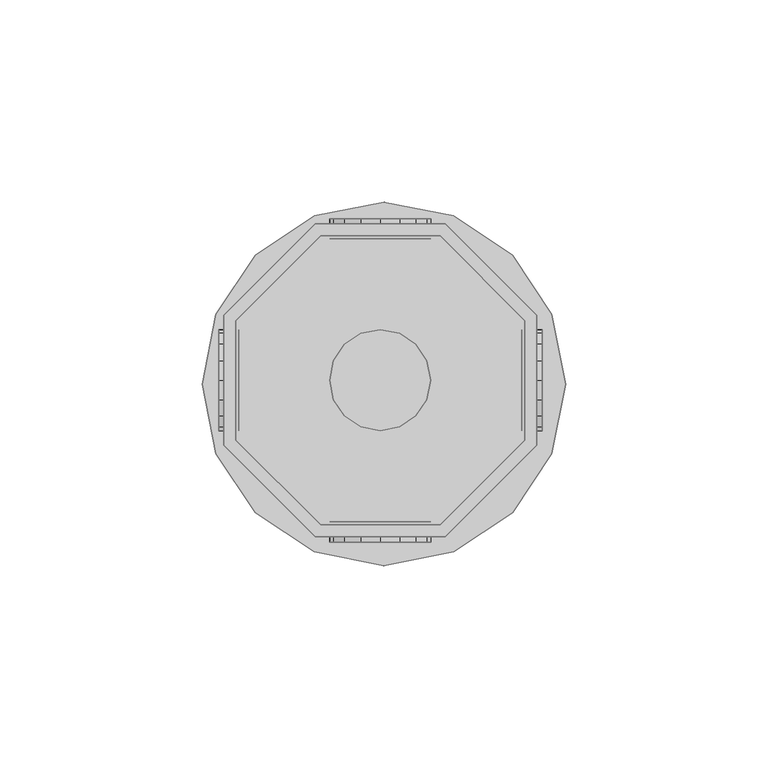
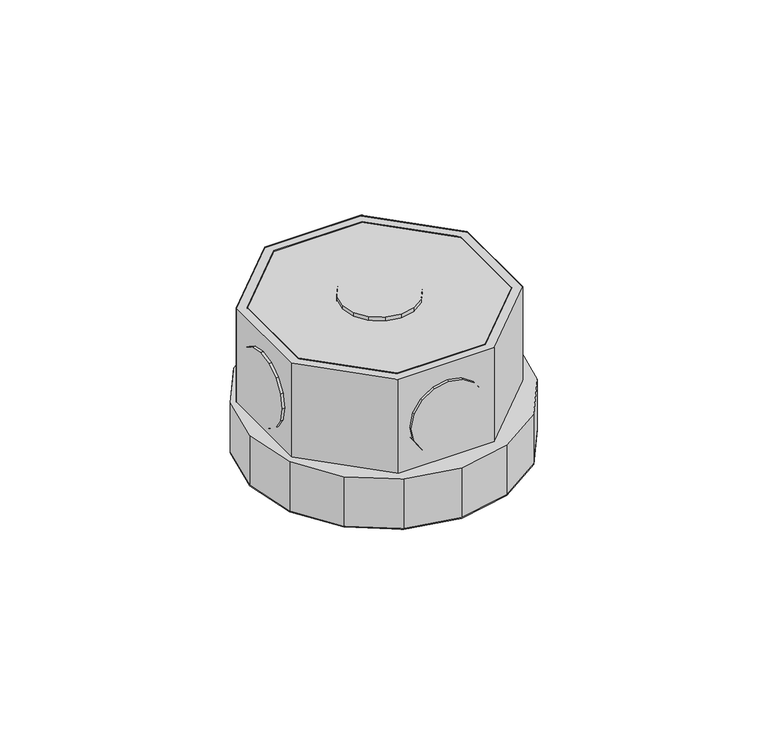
"""IFC4 building model written with IfcOpenShell, lengths in millimetres: light fixture geometry,  213148 :  213148."""

from ifc_helpers import new_model, si_unit, origin, place, context, project, spatial, triangles, source, transform, mapped, element, save


def light_fixture_ce5e456c(model_context):
    return source(origin(), model_context, "Body", "Tessellation", [
        triangles([(22382.4989136, 16550.5002411, 2924.5999741), (22352.9007202, 16550.5002411, 2975.400071), (22352.9007202, 16550.5002411, 2924.5999741), (22382.4989136, 16550.5002411, 2975.400071), (22383.6988403, 16476.0001373, 2924.5999741), (22351.6007996, 16476.0001373, 2975.400071), (22351.6007996, 16476.0001373, 2924.5999741), (22383.6988403, 16476.0001373, 2975.400071), (22331.8996765, 16529.5003601, 2975.400071), (22331.8996765, 16529.5003601, 2924.5999741), (22406.3997803, 16498.6999146, 2924.5999741), (22406.3997803, 16498.6999146, 2975.400071), (22331.8996765, 16499.8998413, 2975.400071), (22331.8996765, 16499.8998413, 2924.5999741), (22406.3997803, 16530.8002808, 2924.5999741), (22406.3997803, 16530.8002808, 2975.400071), (22352.9007202, 16478.9999542, 2975.400071), (22352.9007202, 16478.9999542, 2924.5999741), (22383.6988403, 16553.500058, 2924.5999741), (22383.6988403, 16553.500058, 2975.400071), (22382.4989136, 16478.9999542, 2924.5999741), (22382.4989136, 16478.9999542, 2975.400071), (22351.6007996, 16553.500058, 2975.400071), (22351.6007996, 16553.500058, 2924.5999741), (22403.3999634, 16499.8998413, 2924.5999741), (22403.3999634, 16499.8998413, 2975.400071), (22328.8998596, 16530.8002808, 2975.400071), (22328.8998596, 16530.8002808, 2924.5999741), (22328.8998596, 16498.6999146, 2975.400071), (22403.3999634, 16529.5003601, 2975.400071), (22403.3999634, 16529.5003601, 2924.5999741), (22328.8998596, 16498.6999146, 2924.5999741), (22331.8996765, 16499.8998413, 2972.3999634), (22352.9007202, 16478.9999542, 2972.3999634), (22382.4989136, 16478.9999542, 2972.3999634), (22403.3999634, 16499.8998413, 2972.3999634), (22403.3999634, 16529.5003601, 2972.3999634), (22382.4989136, 16550.5002411, 2972.3999634), (22352.9007202, 16550.5002411, 2972.3999634), (22331.8996765, 16529.5003601, 2972.3999634), (22328.8998596, 16530.8002808, 2942.4000504), (22351.6007996, 16553.500058, 2942.4000504), (22383.6988403, 16553.500058, 2942.4000504), (22406.3997803, 16530.8002808, 2942.4000504), (22406.3997803, 16498.6999146, 2942.4000504), (22383.6988403, 16476.0001373, 2942.4000504), (22351.6007996, 16476.0001373, 2942.4000504), (22328.8998596, 16498.6999146, 2942.4000504), (22351.3008179, 16472.3003632, 2942.4000504), (22326.9999756, 16496.6000427, 2942.4000504), (22336.6993835, 16481.9997711, 2942.4000504), (22323.6001831, 16513.8001556, 2942.4000504), (22326.9999756, 16531.1002625, 2942.4000504), (22336.6993835, 16545.7005341, 2942.4000504), (22351.3008179, 16555.399942, 2942.4000504), (22368.599762, 16558.7997345, 2942.4000504), (22385.8010376, 16555.399942, 2942.4000504), (22410.0995544, 16531.1002625, 2942.4000504), (22400.4001465, 16545.7005341, 2942.4000504), (22368.599762, 16468.8005768, 2942.4000504), (22385.8010376, 16472.3003632, 2942.4000504), (22400.4001465, 16481.9997711, 2942.4000504), (22410.0995544, 16496.6000427, 2942.4000504), (22413.5993408, 16513.8001556, 2942.4000504), (22326.9999756, 16496.6000427, 2924.5999741), (22351.3008179, 16472.3003632, 2924.5999741), (22336.6993835, 16481.9997711, 2924.5999741), (22323.6001831, 16513.8001556, 2924.5999741), (22326.9999756, 16531.1002625, 2924.5999741), (22336.6993835, 16545.7005341, 2924.5999741), (22351.3008179, 16555.399942, 2924.5999741), (22368.599762, 16558.7997345, 2924.5999741), (22385.8010376, 16555.399942, 2924.5999741), (22410.0995544, 16531.1002625, 2924.5999741), (22400.4001465, 16545.7005341, 2924.5999741), (22368.599762, 16468.8005768, 2924.5999741), (22385.8010376, 16472.3003632, 2924.5999741), (22400.4001465, 16481.9997711, 2924.5999741), (22410.0995544, 16496.6000427, 2924.5999741), (22413.5993408, 16513.8001556, 2924.5999741), (22356.1005249, 16554.6999847, 2952.6000092), (22362.9001099, 16554.6999847, 2945.9001274), (22358.8003601, 16554.6999847, 2948.5999626), (22355.2005798, 16554.6999847, 2957.4000069), (22367.6998169, 16554.6999847, 2944.8998978), (22356.1005249, 16554.6999847, 2962.2000046), (22372.4995239, 16554.6999847, 2945.9001274), (22358.8003601, 16554.6999847, 2966.2000511), (22376.4992798, 16554.6999847, 2948.5999626), (22362.9001099, 16554.6999847, 2968.8998863), (22379.199115, 16554.6999847, 2952.6000092), (22367.6998169, 16554.6999847, 2969.900116), (22380.199054, 16554.6999847, 2957.4000069), (22372.4995239, 16554.6999847, 2968.8998863), (22379.199115, 16554.6999847, 2962.2000046), (22376.4992798, 16554.6999847, 2966.2000511), (22362.9001099, 16549.7002899, 2945.9001274), (22356.1005249, 16549.7002899, 2952.6000092), (22358.8003601, 16549.7002899, 2948.5999626), (22367.6998169, 16549.7002899, 2944.8998978), (22355.2005798, 16549.7002899, 2957.4000069), (22372.4995239, 16549.7002899, 2945.9001274), (22356.1005249, 16549.7002899, 2962.2000046), (22376.4992798, 16549.7002899, 2948.5999626), (22358.8003601, 16549.7002899, 2966.2000511), (22362.9001099, 16549.7002899, 2968.8998863), (22379.199115, 16549.7002899, 2952.6000092), (22367.6998169, 16549.7002899, 2969.900116), (22380.199054, 16549.7002899, 2957.4000069), (22372.4995239, 16549.7002899, 2968.8998863), (22379.199115, 16549.7002899, 2962.2000046), (22376.4992798, 16549.7002899, 2966.2000511), (22356.1005249, 16479.6999115, 2952.6000092), (22362.9001099, 16479.6999115, 2945.9001274), (22358.8003601, 16479.6999115, 2948.5999626), (22355.2005798, 16479.6999115, 2957.4000069), (22367.6998169, 16479.6999115, 2944.8998978), (22356.1005249, 16479.6999115, 2962.2000046), (22372.4995239, 16479.6999115, 2945.9001274), (22358.8003601, 16479.6999115, 2966.2000511), (22376.4992798, 16479.6999115, 2948.5999626), (22362.9001099, 16479.6999115, 2968.8998863), (22379.199115, 16479.6999115, 2952.6000092), (22367.6998169, 16479.6999115, 2969.900116), (22380.199054, 16479.6999115, 2957.4000069), (22372.4995239, 16479.6999115, 2968.8998863), (22379.199115, 16479.6999115, 2962.2000046), (22376.4992798, 16479.6999115, 2966.2000511), (22362.9001099, 16474.7002167, 2945.9001274), (22356.1005249, 16474.7002167, 2952.6000092), (22358.8003601, 16474.7002167, 2948.5999626), (22367.6998169, 16474.7002167, 2944.8998978), (22355.2005798, 16474.7002167, 2957.4000069), (22372.4995239, 16474.7002167, 2945.9001274), (22356.1005249, 16474.7002167, 2962.2000046), (22376.4992798, 16474.7002167, 2948.5999626), (22358.8003601, 16474.7002167, 2966.2000511), (22362.9001099, 16474.7002167, 2968.8998863), (22379.199115, 16474.7002167, 2952.6000092), (22367.6998169, 16474.7002167, 2969.900116), (22380.199054, 16474.7002167, 2957.4000069), (22372.4995239, 16474.7002167, 2968.8998863), (22379.199115, 16474.7002167, 2962.2000046), (22376.4992798, 16474.7002167, 2966.2000511), (22332.6996277, 16509.9003937, 2945.9001274), (22332.6996277, 16503.1996399, 2952.6000092), (22332.6996277, 16505.8994751, 2948.5999626), (22332.6996277, 16514.7001007, 2944.8998978), (22332.6996277, 16502.1997009, 2957.4000069), (22332.6996277, 16519.4998077, 2945.9001274), (22332.6996277, 16503.1996399, 2962.2000046), (22332.6996277, 16523.5995575, 2948.5999626), (22332.6996277, 16505.8994751, 2966.2000511), (22332.6996277, 16509.9003937, 2968.8998863), (22332.6996277, 16526.3005554, 2952.6000092), (22332.6996277, 16514.7001007, 2969.900116), (22332.6996277, 16527.2005005, 2957.4000069), (22332.6996277, 16519.4998077, 2968.8998863), (22332.6996277, 16526.3005554, 2962.2000046), (22332.6996277, 16523.5995575, 2966.2000511), (22327.6999329, 16503.1996399, 2952.6000092), (22327.6999329, 16509.9003937, 2945.9001274), (22327.6999329, 16505.8994751, 2948.5999626), (22327.6999329, 16502.1997009, 2957.4000069), (22327.6999329, 16514.7001007, 2944.8998978), (22327.6999329, 16503.1996399, 2962.2000046), (22327.6999329, 16519.4998077, 2945.9001274), (22327.6999329, 16505.8994751, 2966.2000511), (22327.6999329, 16523.5995575, 2948.5999626), (22327.6999329, 16509.9003937, 2968.8998863), (22327.6999329, 16526.3005554, 2952.6000092), (22327.6999329, 16514.7001007, 2969.900116), (22327.6999329, 16527.2005005, 2957.4000069), (22327.6999329, 16519.4998077, 2968.8998863), (22327.6999329, 16526.3005554, 2962.2000046), (22327.6999329, 16523.5995575, 2966.2000511), (22407.6997009, 16509.9003937, 2945.9001274), (22407.6997009, 16503.1996399, 2952.6000092), (22407.6997009, 16505.8994751, 2948.5999626), (22407.6997009, 16514.7001007, 2944.8998978), (22407.6997009, 16502.1997009, 2957.4000069), (22407.6997009, 16519.4998077, 2945.9001274), (22407.6997009, 16503.1996399, 2962.2000046), (22407.6997009, 16523.5995575, 2948.5999626), (22407.6997009, 16505.8994751, 2966.2000511), (22407.6997009, 16509.9003937, 2968.8998863), (22407.6997009, 16526.3005554, 2952.6000092), (22407.6997009, 16514.7001007, 2969.900116), (22407.6997009, 16527.2005005, 2957.4000069), (22407.6997009, 16519.4998077, 2968.8998863), (22407.6997009, 16526.3005554, 2962.2000046), (22407.6997009, 16523.5995575, 2966.2000511), (22402.7000061, 16503.1996399, 2952.6000092), (22402.7000061, 16509.9003937, 2945.9001274), (22402.7000061, 16505.8994751, 2948.5999626), (22402.7000061, 16502.1997009, 2957.4000069), (22402.7000061, 16514.7001007, 2944.8998978), (22402.7000061, 16503.1996399, 2962.2000046), (22402.7000061, 16519.4998077, 2945.9001274), (22402.7000061, 16505.8994751, 2966.2000511), (22402.7000061, 16523.5995575, 2948.5999626), (22402.7000061, 16509.9003937, 2968.8998863), (22402.7000061, 16526.3005554, 2952.6000092), (22402.7000061, 16514.7001007, 2969.900116), (22402.7000061, 16527.2005005, 2957.4000069), (22402.7000061, 16519.4998077, 2968.8998863), (22402.7000061, 16526.3005554, 2962.2000046), (22402.7000061, 16523.5995575, 2966.2000511), (22362.9001099, 16503.1996399, 2976.9999733), (22356.1005249, 16509.9003937, 2976.9999733), (22358.8003601, 16505.8994751, 2976.9999733), (22355.2005798, 16514.7001007, 2976.9999733), (22367.6998169, 16502.1997009, 2976.9999733), (22356.1005249, 16519.4998077, 2976.9999733), (22372.4995239, 16503.1996399, 2976.9999733), (22358.8003601, 16523.5995575, 2976.9999733), (22376.4992798, 16505.8994751, 2976.9999733), (22362.9001099, 16526.3005554, 2976.9999733), (22379.199115, 16509.9003937, 2976.9999733), (22367.6998169, 16527.2005005, 2976.9999733), (22380.199054, 16514.7001007, 2976.9999733), (22372.4995239, 16526.3005554, 2976.9999733), (22379.199115, 16519.4998077, 2976.9999733), (22376.4992798, 16523.5995575, 2976.9999733), (22356.1005249, 16509.9003937, 2971.9999878), (22362.9001099, 16503.1996399, 2971.9999878), (22358.8003601, 16505.8994751, 2971.9999878), (22355.2005798, 16514.7001007, 2971.9999878), (22367.6998169, 16502.1997009, 2971.9999878), (22356.1005249, 16519.4998077, 2971.9999878), (22372.4995239, 16503.1996399, 2971.9999878), (22358.8003601, 16523.5995575, 2971.9999878), (22376.4992798, 16505.8994751, 2971.9999878), (22362.9001099, 16526.3005554, 2971.9999878), (22379.199115, 16509.9003937, 2971.9999878), (22367.6998169, 16527.2005005, 2971.9999878), (22380.199054, 16514.7001007, 2971.9999878), (22372.4995239, 16526.3005554, 2971.9999878), (22379.199115, 16519.4998077, 2971.9999878), (22376.4992798, 16523.5995575, 2971.9999878)], [[1, 2, 3], [2, 1, 4], [5, 6, 7], [6, 5, 8], [3, 9, 10], [9, 3, 2], [11, 8, 5], [8, 11, 12], [10, 13, 14], [13, 10, 9], [15, 12, 11], [12, 15, 16], [14, 17, 18], [17, 14, 13], [19, 16, 15], [16, 19, 20], [17, 21, 18], [21, 17, 22], [23, 19, 24], [19, 23, 20], [22, 25, 21], [25, 22, 26], [27, 24, 28], [24, 27, 23], [6, 13, 29], [29, 13, 27], [27, 13, 9], [27, 9, 23], [23, 9, 2], [23, 2, 4], [23, 4, 20], [20, 4, 30], [8, 17, 6], [6, 17, 13], [17, 8, 22], [12, 22, 8], [22, 12, 26], [30, 26, 12], [16, 30, 12], [20, 30, 16], [30, 1, 31], [1, 30, 4], [6, 32, 7], [32, 6, 29], [32, 14, 7], [28, 14, 32], [14, 28, 10], [24, 10, 28], [10, 24, 3], [1, 3, 24], [19, 1, 24], [31, 1, 19], [7, 18, 5], [14, 18, 7], [5, 18, 21], [5, 21, 11], [11, 21, 25], [11, 25, 31], [11, 31, 15], [15, 31, 19], [26, 31, 25], [31, 26, 30], [29, 28, 32], [28, 29, 27], [17, 33, 34], [33, 17, 13], [35, 17, 34], [17, 35, 22], [36, 22, 35], [22, 36, 26], [37, 26, 36], [26, 37, 30], [38, 30, 37], [30, 38, 4], [2, 38, 39], [38, 2, 4], [17, 9, 13], [9, 17, 22], [9, 22, 2], [2, 22, 26], [2, 26, 4], [4, 26, 30], [13, 40, 33], [40, 13, 9], [40, 34, 33], [35, 34, 40], [35, 40, 39], [35, 39, 36], [36, 39, 38], [36, 38, 37], [9, 39, 40], [39, 9, 2], [24, 41, 28], [41, 24, 42], [19, 42, 24], [42, 19, 43], [44, 19, 15], [19, 44, 43], [45, 15, 11], [15, 45, 44], [46, 11, 5], [11, 46, 45], [47, 5, 7], [5, 47, 46], [32, 47, 7], [47, 32, 48], [28, 48, 32], [48, 28, 41], [49, 50, 51], [48, 50, 49], [50, 48, 52], [41, 52, 48], [52, 41, 53], [53, 41, 54], [42, 54, 41], [54, 42, 55], [55, 42, 43], [55, 43, 56], [56, 43, 57], [57, 43, 44], [57, 44, 58], [57, 58, 59], [47, 49, 60], [49, 47, 48], [47, 60, 46], [61, 46, 60], [46, 61, 62], [46, 62, 45], [45, 62, 63], [44, 45, 63], [44, 63, 64], [44, 64, 58], [65, 66, 67], [66, 65, 32], [68, 32, 65], [32, 68, 28], [28, 68, 69], [70, 28, 69], [28, 70, 24], [71, 24, 70], [19, 24, 71], [19, 71, 72], [73, 19, 72], [19, 73, 15], [74, 15, 73], [74, 73, 75], [76, 66, 7], [32, 7, 66], [5, 76, 7], [76, 5, 77], [77, 5, 78], [11, 78, 5], [78, 11, 79], [79, 11, 15], [79, 15, 80], [80, 15, 74], [57, 75, 73], [75, 57, 59], [56, 73, 72], [73, 56, 57], [55, 72, 71], [72, 55, 56], [54, 71, 70], [71, 54, 55], [53, 70, 69], [70, 53, 54], [52, 69, 68], [69, 52, 53], [50, 68, 65], [68, 50, 52], [51, 65, 67], [65, 51, 50], [66, 51, 67], [51, 66, 49], [76, 49, 66], [49, 76, 60], [77, 60, 76], [60, 77, 61], [78, 61, 77], [61, 78, 62], [79, 62, 78], [62, 79, 63], [80, 63, 79], [63, 80, 64], [75, 58, 74], [58, 75, 59], [74, 64, 80], [64, 74, 58], [81, 82, 83], [82, 81, 84], [85, 82, 84], [85, 84, 86], [87, 85, 86], [87, 86, 88], [87, 88, 89], [89, 88, 90], [89, 90, 91], [91, 90, 92], [91, 92, 93], [93, 92, 94], [93, 94, 95], [95, 94, 96], [97, 98, 99], [98, 97, 100], [101, 98, 100], [101, 100, 102], [103, 101, 102], [103, 102, 104], [103, 104, 105], [105, 104, 106], [106, 104, 107], [106, 107, 108], [108, 107, 109], [108, 109, 110], [110, 109, 111], [110, 111, 112], [87, 104, 102], [104, 87, 89], [85, 102, 100], [102, 85, 87], [82, 100, 97], [100, 82, 85], [83, 97, 99], [97, 83, 82], [98, 83, 99], [83, 98, 81], [101, 81, 98], [81, 101, 84], [103, 84, 101], [84, 103, 86], [105, 86, 103], [86, 105, 88], [106, 88, 105], [88, 106, 90], [108, 90, 106], [90, 108, 92], [110, 92, 108], [92, 110, 94], [112, 94, 110], [94, 112, 96], [95, 112, 111], [112, 95, 96], [93, 111, 109], [111, 93, 95], [89, 107, 104], [107, 89, 91], [91, 109, 107], [109, 91, 93], [113, 114, 115], [114, 113, 116], [117, 114, 116], [117, 116, 118], [119, 117, 118], [119, 118, 120], [119, 120, 121], [121, 120, 122], [121, 122, 123], [123, 122, 124], [123, 124, 125], [125, 124, 126], [125, 126, 127], [127, 126, 128], [129, 130, 131], [130, 129, 132], [133, 130, 132], [133, 132, 134], [135, 133, 134], [135, 134, 136], [135, 136, 137], [137, 136, 138], [138, 136, 139], [138, 139, 140], [140, 139, 141], [140, 141, 142], [142, 141, 143], [142, 143, 144], [119, 136, 134], [136, 119, 121], [117, 134, 132], [134, 117, 119], [114, 132, 129], [132, 114, 117], [115, 129, 131], [129, 115, 114], [130, 115, 131], [115, 130, 113], [133, 113, 130], [113, 133, 116], [135, 116, 133], [116, 135, 118], [137, 118, 135], [118, 137, 120], [138, 120, 137], [120, 138, 122], [140, 122, 138], [122, 140, 124], [142, 124, 140], [124, 142, 126], [144, 126, 142], [126, 144, 128], [127, 144, 143], [144, 127, 128], [125, 143, 141], [143, 125, 127], [121, 139, 136], [139, 121, 123], [123, 141, 139], [141, 123, 125], [145, 146, 147], [146, 145, 148], [149, 146, 148], [149, 148, 150], [151, 149, 150], [151, 150, 152], [151, 152, 153], [153, 152, 154], [154, 152, 155], [154, 155, 156], [156, 155, 157], [156, 157, 158], [158, 157, 159], [158, 159, 160], [161, 162, 163], [162, 161, 164], [165, 162, 164], [165, 164, 166], [167, 165, 166], [167, 166, 168], [169, 167, 168], [169, 168, 170], [169, 170, 171], [171, 170, 172], [171, 172, 173], [173, 172, 174], [173, 174, 175], [175, 174, 176], [158, 176, 174], [176, 158, 160], [156, 174, 172], [174, 156, 158], [154, 172, 170], [172, 154, 156], [153, 170, 168], [170, 153, 154], [151, 168, 166], [168, 151, 153], [149, 166, 164], [166, 149, 151], [146, 164, 161], [164, 146, 149], [147, 161, 163], [161, 147, 146], [162, 147, 163], [147, 162, 145], [165, 145, 162], [145, 165, 148], [167, 148, 165], [148, 167, 150], [169, 150, 167], [150, 169, 152], [171, 152, 169], [152, 171, 155], [173, 155, 171], [155, 173, 157], [176, 159, 175], [159, 176, 160], [175, 157, 173], [157, 175, 159], [177, 178, 179], [178, 177, 180], [181, 178, 180], [181, 180, 182], [183, 181, 182], [183, 182, 184], [183, 184, 185], [185, 184, 186], [186, 184, 187], [186, 187, 188], [188, 187, 189], [188, 189, 190], [190, 189, 191], [190, 191, 192], [193, 194, 195], [194, 193, 196], [197, 194, 196], [197, 196, 198], [199, 197, 198], [199, 198, 200], [201, 199, 200], [201, 200, 202], [201, 202, 203], [203, 202, 204], [203, 204, 205], [205, 204, 206], [205, 206, 207], [207, 206, 208], [190, 208, 206], [208, 190, 192], [188, 206, 204], [206, 188, 190], [186, 204, 202], [204, 186, 188], [185, 202, 200], [202, 185, 186], [183, 200, 198], [200, 183, 185], [181, 198, 196], [198, 181, 183], [178, 196, 193], [196, 178, 181], [179, 193, 195], [193, 179, 178], [194, 179, 195], [179, 194, 177], [197, 177, 194], [177, 197, 180], [199, 180, 197], [180, 199, 182], [201, 182, 199], [182, 201, 184], [203, 184, 201], [184, 203, 187], [205, 187, 203], [187, 205, 189], [208, 191, 207], [191, 208, 192], [207, 189, 205], [189, 207, 191], [209, 210, 211], [212, 210, 209], [212, 209, 213], [214, 212, 213], [214, 213, 215], [216, 214, 215], [216, 215, 217], [216, 217, 218], [218, 217, 219], [218, 219, 220], [220, 219, 221], [220, 221, 222], [222, 221, 223], [222, 223, 224], [225, 226, 227], [226, 225, 228], [229, 226, 228], [229, 228, 230], [231, 229, 230], [231, 230, 232], [231, 232, 233], [233, 232, 234], [233, 234, 235], [235, 234, 236], [235, 236, 237], [237, 236, 238], [237, 238, 239], [239, 238, 240], [222, 240, 238], [240, 222, 224], [220, 238, 236], [238, 220, 222], [218, 236, 234], [236, 218, 220], [216, 234, 232], [234, 216, 218], [214, 232, 230], [232, 214, 216], [212, 230, 228], [230, 212, 214], [210, 228, 225], [228, 210, 212], [211, 225, 227], [225, 211, 210], [226, 211, 227], [211, 226, 209], [229, 209, 226], [209, 229, 213], [231, 213, 229], [213, 231, 215], [233, 215, 231], [215, 233, 217], [235, 217, 233], [217, 235, 219], [237, 219, 235], [219, 237, 221], [240, 223, 239], [223, 240, 224], [239, 221, 237], [221, 239, 223]], closed=False),
    ])


if __name__ == "__main__":
    model = new_model("IFC4")
    model_context = context("Model", 3, world=origin())
    ifc_project = project(units=[si_unit("LENGTHUNIT", "METRE", prefix="MILLI")], contexts=[model_context])
    site = spatial("IfcSite", under=ifc_project)
    building = spatial("IfcBuilding", under=site)
    placement = place(None, origin())
    light_fixture_shape = light_fixture_ce5e456c(model_context)
    element("IfcLightFixture", 1, ObjectType=" 213148 :  213148", at=placement, inside=building, context=model_context, shape_type="MappedRepresentation", body=[
        mapped(light_fixture_shape, transform((0.0, 0.0, 0.0), x_axis=(1.0, 0.0, 0.0), y_axis=(0.0, 1.0, 0.0), z_axis=(0.0, 0.0, 1.0))),
    ])
    save(model, "model.ifc")
